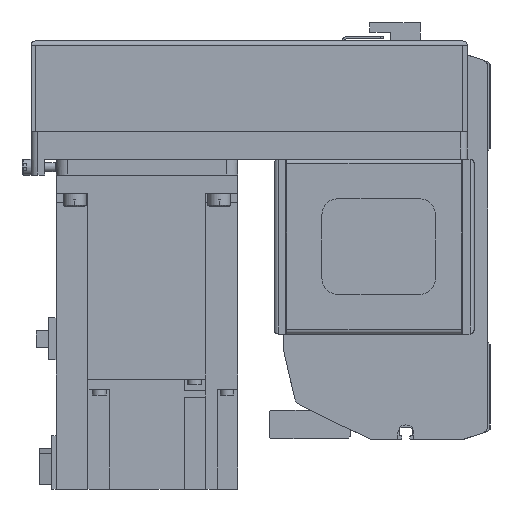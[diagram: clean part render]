
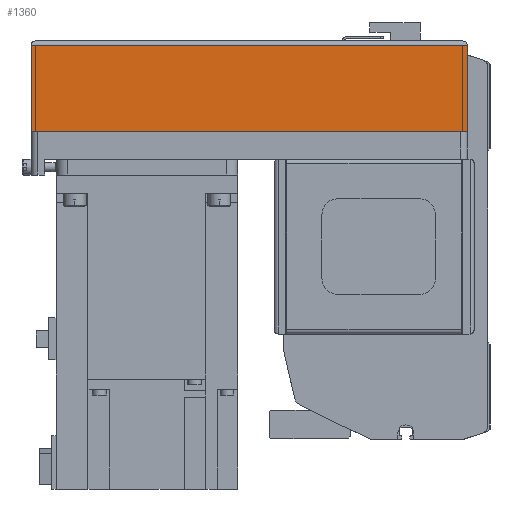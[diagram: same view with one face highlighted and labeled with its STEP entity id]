
A CAD part, left-side view. The second image highlights one B-rep face of the part: STEP entity #1360.
In plain terms, the highlighted planar face has unit normal (-1, 0, 0) as drawn and (0, 1, 0) by its records, which use the part's own axes.
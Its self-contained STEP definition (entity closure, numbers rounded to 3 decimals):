
#1360 = ADVANCED_FACE( '', ( #3495 ), #3496, .T. );
#3495 = FACE_OUTER_BOUND( '', #6617, .T. );
#3496 = PLANE( '', #6618 );
#6617 = EDGE_LOOP( '', ( #10530, #10531, #10532, #10533 ) );
#6618 = AXIS2_PLACEMENT_3D( '', #10534, #10535, #10536 );
#10530 = ORIENTED_EDGE( '', *, *, #18735, .F. );
#10531 = ORIENTED_EDGE( '', *, *, #18736, .F. );
#10532 = ORIENTED_EDGE( '', *, *, #18737, .T. );
#10533 = ORIENTED_EDGE( '', *, *, #18738, .T. );
#10534 = CARTESIAN_POINT( '', ( -192., 40., -50. ) );
#10535 = DIRECTION( '', ( 0., 1., 0. ) );
#10536 = DIRECTION( '', ( 0., 0., 1. ) );
#18735 = EDGE_CURVE( '', #22704, #22705, #22706, .T. );
#18736 = EDGE_CURVE( '', #22032, #22704, #22707, .T. );
#18737 = EDGE_CURVE( '', #22032, #22708, #22709, .T. );
#18738 = EDGE_CURVE( '', #22708, #22705, #22710, .T. );
#22032 = VERTEX_POINT( '', #27274 );
#22704 = VERTEX_POINT( '', #28255 );
#22705 = VERTEX_POINT( '', #28256 );
#22706 = LINE( '', #28257, #28258 );
#22707 = LINE( '', #28259, #28260 );
#22708 = VERTEX_POINT( '', #28261 );
#22709 = LINE( '', #28262, #28263 );
#22710 = LINE( '', #28264, #28265 );
#27274 = CARTESIAN_POINT( '', ( -192., 40., -50. ) );
#28255 = CARTESIAN_POINT( '', ( 0., 40., -50. ) );
#28256 = CARTESIAN_POINT( '', ( 0., 40., -12.1 ) );
#28257 = CARTESIAN_POINT( '', ( 0., 40., -50. ) );
#28258 = VECTOR( '', #34548, 1000. );
#28259 = CARTESIAN_POINT( '', ( -192., 40., -50. ) );
#28260 = VECTOR( '', #34549, 1000. );
#28261 = CARTESIAN_POINT( '', ( -192., 40., -12.1 ) );
#28262 = CARTESIAN_POINT( '', ( -192., 40., -50. ) );
#28263 = VECTOR( '', #34550, 1000. );
#28264 = CARTESIAN_POINT( '', ( -192., 40., -12.1 ) );
#28265 = VECTOR( '', #34551, 1000. );
#34548 = DIRECTION( '', ( 0., 0., 1. ) );
#34549 = DIRECTION( '', ( 1., 0., 0. ) );
#34550 = DIRECTION( '', ( 0., 0., 1. ) );
#34551 = DIRECTION( '', ( 1., 0., 0. ) );
